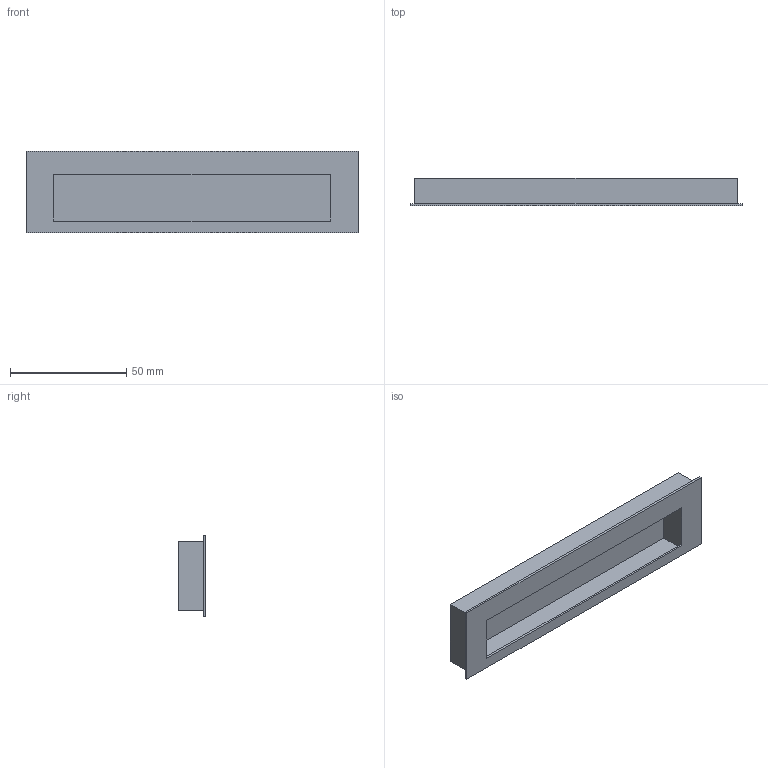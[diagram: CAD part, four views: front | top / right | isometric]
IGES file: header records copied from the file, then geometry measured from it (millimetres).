
Start section: Data from Parasolid IGES Translator 15.0.47, Copyright(c) 2006 Siemens P LM Software. All Rights Reserved.
Global section: file name:  9071071.igs; native system:  By UGS Corp.; preprocessor: XPlus GENERIC/IGES 3.0; author: Noname; organization: Noname; date: 20140122.180953; units: millimetre
Bounding box: 143 x 12 x 35 mm (x, y, z)
Surface area: 19407.1 mm2 (no closed solid volume)
Topology: 0 solids, 0 shells, 24 faces, 108 edges, 106 vertices
Faces by surface type: extrusion 22, revolution 2
